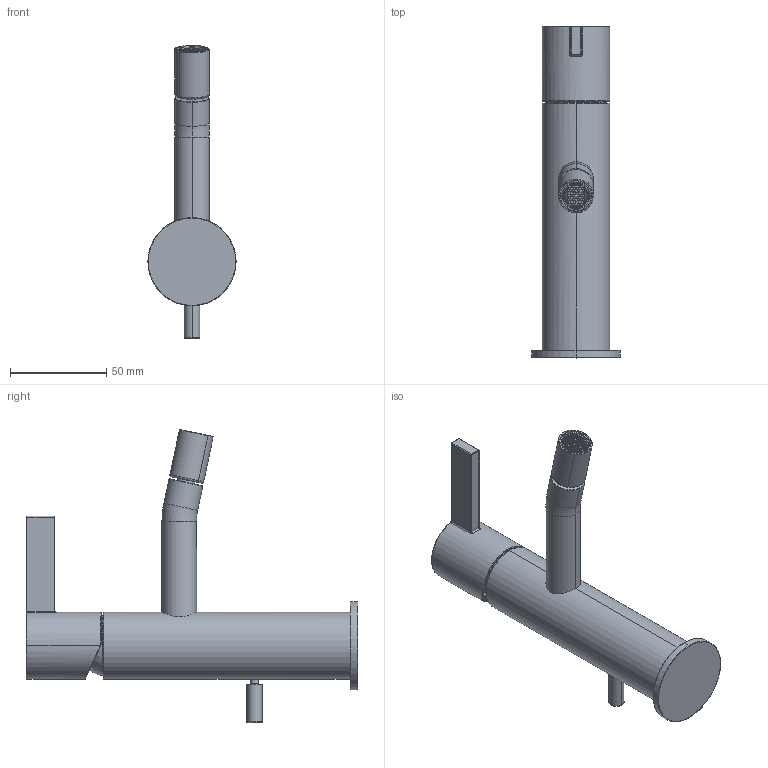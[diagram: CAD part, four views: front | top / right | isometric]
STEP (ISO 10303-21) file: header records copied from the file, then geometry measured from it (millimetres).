
FILE_DESCRIPTION((''),'2;1');
FILE_NAME('5-01620-000D3','2015-01-28T',('tobxav01'),(''),'PRO/ENGINEER BY PARAMETRIC TECHNOLOGY CORPORATION, 2013410','PRO/ENGINEER BY PARAMETRIC TECHNOLOGY CORPORATION, 2013410','');
FILE_SCHEMA(('CONFIG_CONTROL_DESIGN'));
Length unit declared in the file: millimetre
Products named in the file (1): 5-01620-000D3
Bounding box: 46 x 172.7 x 152.61 mm (x, y, z)
Surface area: 51732.9 mm2 (no closed solid volume)
Topology: 0 solids, 17 shells, 1077 faces, 2619 edges, 1548 vertices
Faces by surface type: plane 588, extrusion 223, cylinder 110, bspline 68, torus 63, cone 15, sphere 10
Entity records: 38461 total; most frequent: CARTESIAN_POINT 14805, ORIENTED_EDGE 5162, DIRECTION 4201, EDGE_CURVE 2617, VECTOR 1765, VERTEX_POINT 1548, LINE 1542, AXIS2_PLACEMENT_3D 1218
